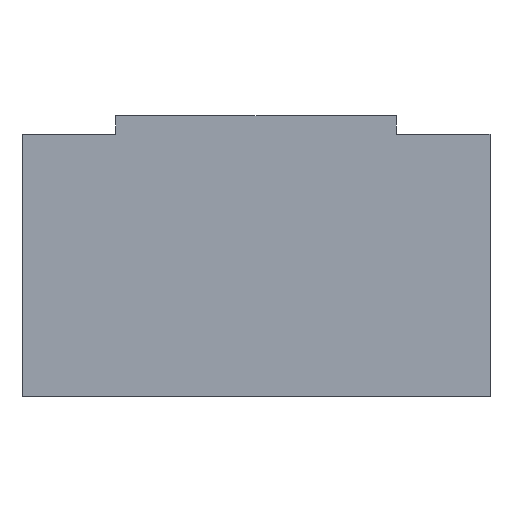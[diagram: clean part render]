
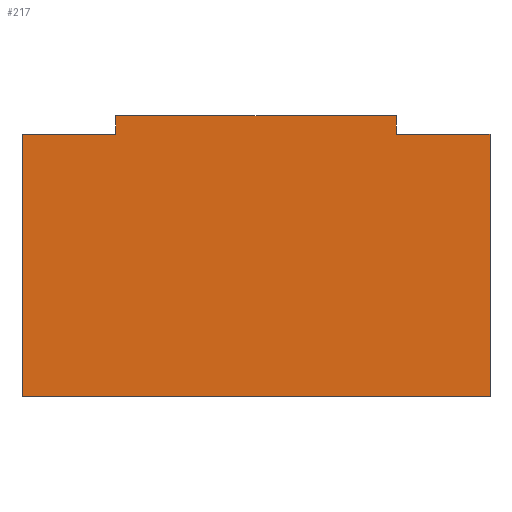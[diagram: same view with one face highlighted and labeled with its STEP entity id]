
A CAD part, left-side view. The second image highlights one B-rep face of the part: STEP entity #217.
In plain terms, the highlighted planar face has unit normal (-1, 0, 0).
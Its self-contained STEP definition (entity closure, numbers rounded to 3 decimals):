
#3 = LINE ( 'NONE', #1030, #462 ) ;
#12 = DIRECTION ( 'NONE',  ( 0., 0., -1. ) ) ;
#18 = CARTESIAN_POINT ( 'NONE',  ( -48., 15., 28. ) ) ;
#62 = CARTESIAN_POINT ( 'NONE',  ( -48., -25., 30. ) ) ;
#68 = DIRECTION ( 'NONE',  ( 0., -1., 0. ) ) ;
#72 = ORIENTED_EDGE ( 'NONE', *, *, #1065, .T. ) ;
#82 = VERTEX_POINT ( 'NONE', #1096 ) ;
#89 = EDGE_CURVE ( 'NONE', #82, #602, #193, .T. ) ;
#115 = ORIENTED_EDGE ( 'NONE', *, *, #686, .F. ) ;
#117 = CARTESIAN_POINT ( 'NONE',  ( -48., -25., 0. ) ) ;
#119 = CARTESIAN_POINT ( 'NONE',  ( -48., -15., 28. ) ) ;
#151 = CARTESIAN_POINT ( 'NONE',  ( -48., -25., 30. ) ) ;
#165 = LINE ( 'NONE', #468, #528 ) ;
#179 = CARTESIAN_POINT ( 'NONE',  ( -48., -25., 30. ) ) ;
#187 = VECTOR ( 'NONE', #682, 1000. ) ;
#193 = LINE ( 'NONE', #62, #410 ) ;
#215 = ORIENTED_EDGE ( 'NONE', *, *, #557, .F. ) ;
#217 = ADVANCED_FACE ( 'NONE', ( #530 ), #650, .F. ) ;
#282 = VERTEX_POINT ( 'NONE', #958 ) ;
#305 = CARTESIAN_POINT ( 'NONE',  ( -48., 40.483, 28. ) ) ;
#395 = EDGE_CURVE ( 'NONE', #282, #1053, #1209, .T. ) ;
#410 = VECTOR ( 'NONE', #68, 1000. ) ;
#423 = VERTEX_POINT ( 'NONE', #119 ) ;
#427 = DIRECTION ( 'NONE',  ( 0., -1., 0. ) ) ;
#462 = VECTOR ( 'NONE', #1035, 1000. ) ;
#467 = DIRECTION ( 'NONE',  ( 1., 0., 0. ) ) ;
#468 = CARTESIAN_POINT ( 'NONE',  ( -48., 15., 28. ) ) ;
#499 = VECTOR ( 'NONE', #427, 1000. ) ;
#500 = DIRECTION ( 'NONE',  ( 0., 0., -1. ) ) ;
#528 = VECTOR ( 'NONE', #576, 1000. ) ;
#530 = FACE_OUTER_BOUND ( 'NONE', #679, .T. ) ;
#557 = EDGE_CURVE ( 'NONE', #423, #849, #939, .T. ) ;
#576 = DIRECTION ( 'NONE',  ( 0., 0., 1. ) ) ;
#594 = EDGE_CURVE ( 'NONE', #849, #1110, #1195, .T. ) ;
#602 = VERTEX_POINT ( 'NONE', #620 ) ;
#605 = CARTESIAN_POINT ( 'NONE',  ( -48., -15., 28. ) ) ;
#620 = CARTESIAN_POINT ( 'NONE',  ( -48., -15., 30. ) ) ;
#650 = PLANE ( 'NONE',  #881 ) ;
#671 = CARTESIAN_POINT ( 'NONE',  ( -48., 25., 30. ) ) ;
#679 = EDGE_LOOP ( 'NONE', ( #894, #215, #115, #1145, #1077, #974, #72, #1108 ) ) ;
#682 = DIRECTION ( 'NONE',  ( 0., 0., -1. ) ) ;
#686 = EDGE_CURVE ( 'NONE', #602, #423, #1087, .T. ) ;
#733 = CARTESIAN_POINT ( 'NONE',  ( -48., -25., 28. ) ) ;
#759 = VECTOR ( 'NONE', #764, 1000. ) ;
#764 = DIRECTION ( 'NONE',  ( 0., -1., 0. ) ) ;
#807 = VECTOR ( 'NONE', #1084, 1000. ) ;
#821 = CARTESIAN_POINT ( 'NONE',  ( -48., 25., 0. ) ) ;
#833 = LINE ( 'NONE', #671, #187 ) ;
#835 = VECTOR ( 'NONE', #500, 1000. ) ;
#849 = VERTEX_POINT ( 'NONE', #733 ) ;
#881 = AXIS2_PLACEMENT_3D ( 'NONE', #179, #467, #12 ) ;
#894 = ORIENTED_EDGE ( 'NONE', *, *, #594, .F. ) ;
#939 = LINE ( 'NONE', #605, #499 ) ;
#958 = CARTESIAN_POINT ( 'NONE',  ( -48., 25., 28. ) ) ;
#974 = ORIENTED_EDGE ( 'NONE', *, *, #395, .F. ) ;
#1030 = CARTESIAN_POINT ( 'NONE',  ( -48., -25., 0. ) ) ;
#1035 = DIRECTION ( 'NONE',  ( 0., -1., 0. ) ) ;
#1053 = VERTEX_POINT ( 'NONE', #18 ) ;
#1065 = EDGE_CURVE ( 'NONE', #282, #1156, #833, .T. ) ;
#1066 = CARTESIAN_POINT ( 'NONE',  ( -48., -15., 28. ) ) ;
#1077 = ORIENTED_EDGE ( 'NONE', *, *, #1191, .F. ) ;
#1084 = DIRECTION ( 'NONE',  ( 0., 0., -1. ) ) ;
#1087 = LINE ( 'NONE', #1066, #835 ) ;
#1096 = CARTESIAN_POINT ( 'NONE',  ( -48., 15., 30. ) ) ;
#1108 = ORIENTED_EDGE ( 'NONE', *, *, #1160, .T. ) ;
#1110 = VERTEX_POINT ( 'NONE', #117 ) ;
#1145 = ORIENTED_EDGE ( 'NONE', *, *, #89, .F. ) ;
#1156 = VERTEX_POINT ( 'NONE', #821 ) ;
#1160 = EDGE_CURVE ( 'NONE', #1156, #1110, #3, .T. ) ;
#1191 = EDGE_CURVE ( 'NONE', #1053, #82, #165, .T. ) ;
#1195 = LINE ( 'NONE', #151, #807 ) ;
#1209 = LINE ( 'NONE', #305, #759 ) ;
